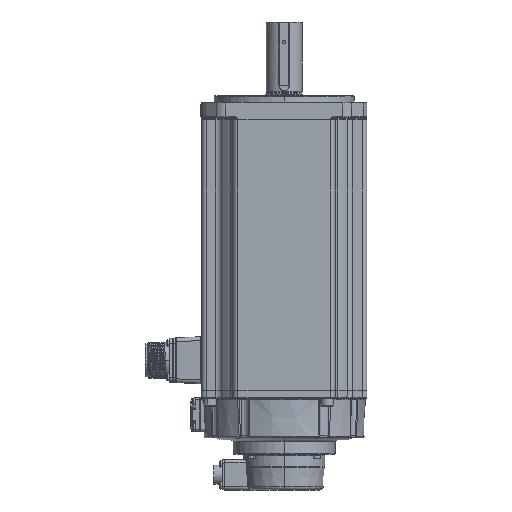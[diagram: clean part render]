
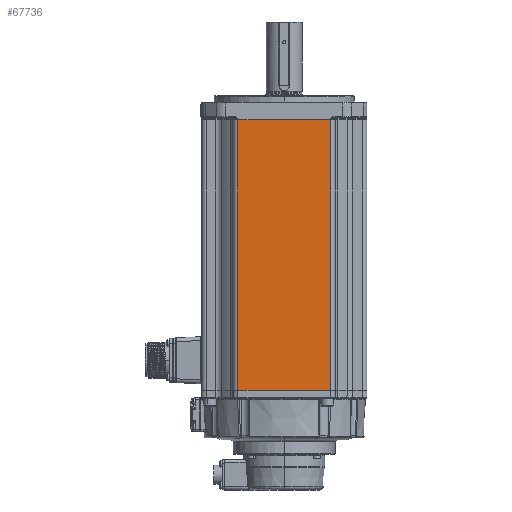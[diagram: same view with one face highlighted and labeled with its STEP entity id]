
A CAD part, left-side view. The second image highlights one B-rep face of the part: STEP entity #67736.
In plain terms, the highlighted planar face has unit normal (-1, 0, 0).
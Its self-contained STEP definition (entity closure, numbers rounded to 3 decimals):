
#1063 = ORIENTED_EDGE ( 'NONE', *, *, #24182, .F. ) ;
#3126 = EDGE_CURVE ( 'NONE', #102963, #47939, #35421, .T. ) ;
#5964 = EDGE_CURVE ( 'NONE', #54814, #13805, #62631, .T. ) ;
#7067 = EDGE_LOOP ( 'NONE', ( #106537, #63444, #1063, #108415 ) ) ;
#12927 = CARTESIAN_POINT ( 'NONE',  ( -65., 0., 0. ) ) ;
#13805 = VERTEX_POINT ( 'NONE', #70362 ) ;
#14890 = DIRECTION ( 'NONE',  ( 0., 0., -1. ) ) ;
#17914 = CARTESIAN_POINT ( 'NONE',  ( -65., 0., 212.4 ) ) ;
#24182 = EDGE_CURVE ( 'NONE', #54814, #102963, #81403, .T. ) ;
#33929 = CARTESIAN_POINT ( 'NONE',  ( -65., 0., 212.4 ) ) ;
#35421 = LINE ( 'NONE', #54157, #56365 ) ;
#37239 = CARTESIAN_POINT ( 'NONE',  ( -65., -36.401, 0. ) ) ;
#42723 = DIRECTION ( 'NONE',  ( 0., 0., -1. ) ) ;
#47238 = CARTESIAN_POINT ( 'NONE',  ( -65., 36.401, 212.4 ) ) ;
#47939 = VERTEX_POINT ( 'NONE', #37239 ) ;
#50628 = VECTOR ( 'NONE', #69757, 1000. ) ;
#54157 = CARTESIAN_POINT ( 'NONE',  ( -65., -36.401, 212.4 ) ) ;
#54814 = VERTEX_POINT ( 'NONE', #47238 ) ;
#56365 = VECTOR ( 'NONE', #14890, 1000. ) ;
#58694 = VECTOR ( 'NONE', #42723, 1000. ) ;
#59463 = LINE ( 'NONE', #12927, #50628 ) ;
#59940 = DIRECTION ( 'NONE',  ( 0., 1., 0. ) ) ;
#62047 = CARTESIAN_POINT ( 'NONE',  ( -65., 36.401, 212.4 ) ) ;
#62631 = LINE ( 'NONE', #62047, #58694 ) ;
#63444 = ORIENTED_EDGE ( 'NONE', *, *, #3126, .F. ) ;
#67736 = ADVANCED_FACE ( 'NONE', ( #95663 ), #105317, .F. ) ;
#69757 = DIRECTION ( 'NONE',  ( 0., -1., 0. ) ) ;
#70362 = CARTESIAN_POINT ( 'NONE',  ( -65., 36.401, 0. ) ) ;
#76469 = AXIS2_PLACEMENT_3D ( 'NONE', #33929, #87194, #59940 ) ;
#81403 = LINE ( 'NONE', #17914, #82784 ) ;
#82784 = VECTOR ( 'NONE', #117749, 1000. ) ;
#87194 = DIRECTION ( 'NONE',  ( 1., 0., 0. ) ) ;
#95663 = FACE_OUTER_BOUND ( 'NONE', #7067, .T. ) ;
#97306 = EDGE_CURVE ( 'NONE', #13805, #47939, #59463, .T. ) ;
#102963 = VERTEX_POINT ( 'NONE', #107849 ) ;
#105317 = PLANE ( 'NONE',  #76469 ) ;
#106537 = ORIENTED_EDGE ( 'NONE', *, *, #97306, .T. ) ;
#107849 = CARTESIAN_POINT ( 'NONE',  ( -65., -36.401, 212.4 ) ) ;
#108415 = ORIENTED_EDGE ( 'NONE', *, *, #5964, .T. ) ;
#117749 = DIRECTION ( 'NONE',  ( 0., -1., 0. ) ) ;
